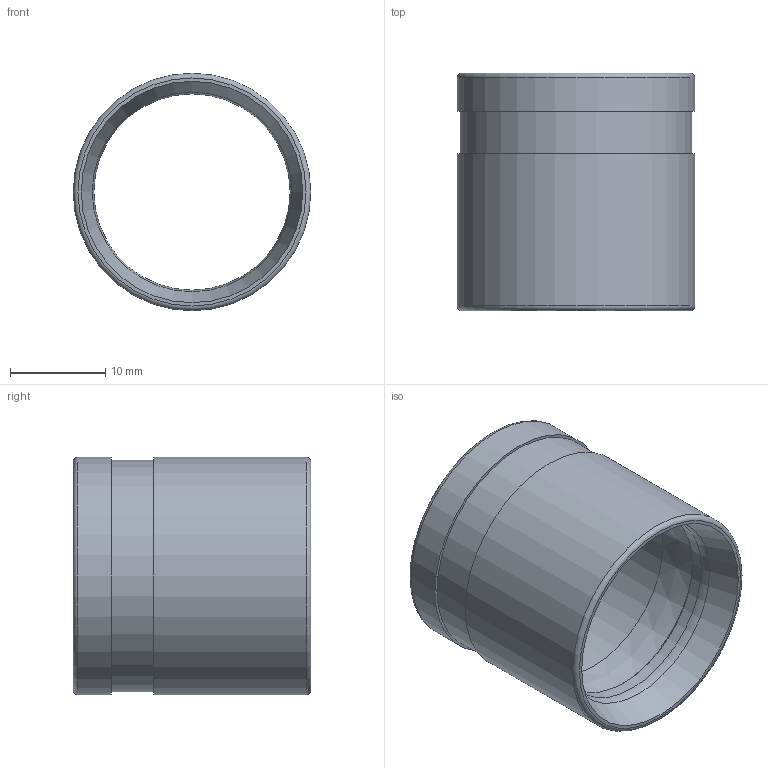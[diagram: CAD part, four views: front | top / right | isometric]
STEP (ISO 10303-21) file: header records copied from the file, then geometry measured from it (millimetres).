
FILE_DESCRIPTION(('STEP AP203'), '1');
FILE_NAME('ÂÐ.713143.001 - VTm.400.G.002028 - Ãèëüçà íàäâèæíàÿ', '2024-01-23T12:51:46', ('Boss'), (''), 'C3D Converter', 'C3D Toolkit', '');
FILE_SCHEMA(('CONFIG_CONTROL_DESIGN'));
Length unit declared in the file: millimetre
Products named in the file (1): ВР.713143.001
Bounding box: 25 x 25 x 25 mm (x, y, z)
Volume: 3558.4 mm3; surface area: 3851.3 mm2
Topology: 1 solids, 1 shells, 17 faces, 29 edges, 17 vertices
Faces by surface type: cylinder 5, plane 5, torus 5, cone 2
Full cylindrical faces by diameter (mm): 20.65 x2, 24.4 x1, 25 x2
Entity records: 379 total; most frequent: DIRECTION 70, CARTESIAN_POINT 52, AXIS2_PLACEMENT_3D 35, EDGE_LOOP 34, ORIENTED_EDGE 34, FACE_OUTER_BOUND 24, ADVANCED_FACE 17, EDGE_CURVE 17
